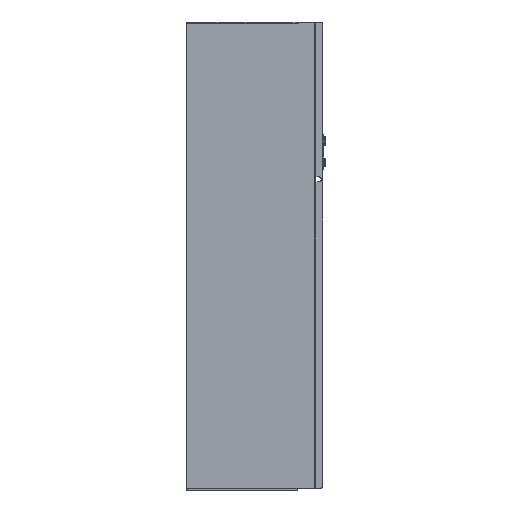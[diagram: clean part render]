
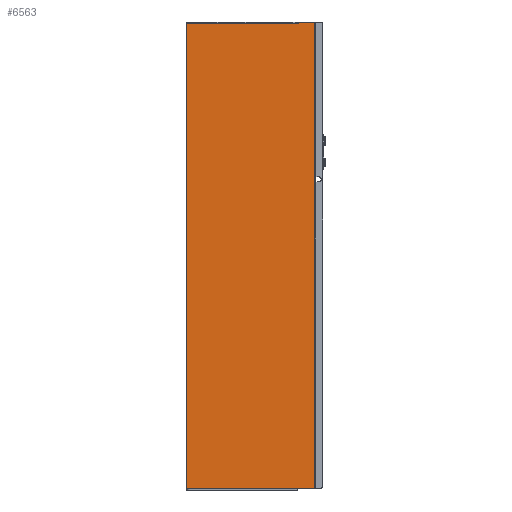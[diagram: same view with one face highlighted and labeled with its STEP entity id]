
A CAD part, left-side view. The second image highlights one B-rep face of the part: STEP entity #6563.
In plain terms, the highlighted planar face has unit normal (-1, 0, 0).
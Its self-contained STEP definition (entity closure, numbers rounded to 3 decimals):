
#78 = ORIENTED_EDGE ( 'NONE', *, *, #2137, .T. ) ;
#111 = LINE ( 'NONE', #9687, #4192 ) ;
#206 = CARTESIAN_POINT ( 'NONE',  ( 0., 18.7, 268.7 ) ) ;
#237 = VERTEX_POINT ( 'NONE', #8477 ) ;
#381 = EDGE_CURVE ( 'NONE', #2314, #1041, #8320, .T. ) ;
#904 = CARTESIAN_POINT ( 'NONE',  ( 0., 20.3, 268.5 ) ) ;
#1041 = VERTEX_POINT ( 'NONE', #12585 ) ;
#1066 = DIRECTION ( 'NONE',  ( 0., 0., -1. ) ) ;
#1410 = CARTESIAN_POINT ( 'NONE',  ( 0., 0., 270. ) ) ;
#1448 = LINE ( 'NONE', #5198, #12883 ) ;
#1467 = VECTOR ( 'NONE', #10112, 1000. ) ;
#1708 = CIRCLE ( 'NONE', #5227, 0.2 ) ;
#1711 = VECTOR ( 'NONE', #17591, 1000. ) ;
#1864 = EDGE_CURVE ( 'NONE', #6651, #5863, #5657, .T. ) ;
#2078 = VECTOR ( 'NONE', #14517, 1000. ) ;
#2137 = EDGE_CURVE ( 'NONE', #2314, #6429, #5878, .T. ) ;
#2205 = VECTOR ( 'NONE', #17024, 1000. ) ;
#2295 = LINE ( 'NONE', #17519, #5531 ) ;
#2314 = VERTEX_POINT ( 'NONE', #16796 ) ;
#3213 = CARTESIAN_POINT ( 'NONE',  ( 0., 18.3, 269.8 ) ) ;
#3336 = CARTESIAN_POINT ( 'NONE',  ( 0., 18.3, 270. ) ) ;
#3864 = DIRECTION ( 'NONE',  ( -1., 0., 0. ) ) ;
#4051 = CARTESIAN_POINT ( 'NONE',  ( 0., 0., 270. ) ) ;
#4105 = EDGE_CURVE ( 'NONE', #7512, #10158, #111, .T. ) ;
#4138 = ORIENTED_EDGE ( 'NONE', *, *, #16521, .T. ) ;
#4192 = VECTOR ( 'NONE', #5488, 1000. ) ;
#4597 = DIRECTION ( 'NONE',  ( 0., 0., -1. ) ) ;
#4769 = EDGE_CURVE ( 'NONE', #14776, #6429, #1708, .T. ) ;
#4977 = CARTESIAN_POINT ( 'NONE',  ( 0., 18.5, 269.8 ) ) ;
#5108 = LINE ( 'NONE', #16895, #1467 ) ;
#5198 = CARTESIAN_POINT ( 'NONE',  ( 0., 148., 270. ) ) ;
#5227 = AXIS2_PLACEMENT_3D ( 'NONE', #12168, #3864, #13551 ) ;
#5460 = VERTEX_POINT ( 'NONE', #10582 ) ;
#5488 = DIRECTION ( 'NONE',  ( 0., 1., 0. ) ) ;
#5531 = VECTOR ( 'NONE', #1066, 1000. ) ;
#5602 = LINE ( 'NONE', #11027, #15292 ) ;
#5606 = CARTESIAN_POINT ( 'NONE',  ( 0., 20.5, 268.7 ) ) ;
#5657 = LINE ( 'NONE', #1410, #12574 ) ;
#5863 = VERTEX_POINT ( 'NONE', #14503 ) ;
#5878 = LINE ( 'NONE', #6043, #2205 ) ;
#5881 = VERTEX_POINT ( 'NONE', #11817 ) ;
#5992 = DIRECTION ( 'NONE',  ( -1., 0., 0. ) ) ;
#6043 = CARTESIAN_POINT ( 'NONE',  ( 0., 20.5, 268.5 ) ) ;
#6047 = EDGE_CURVE ( 'NONE', #5460, #5881, #6838, .T. ) ;
#6269 = CARTESIAN_POINT ( 'NONE',  ( 0., 20.5, 268.8 ) ) ;
#6404 = VECTOR ( 'NONE', #16786, 1000. ) ;
#6429 = VERTEX_POINT ( 'NONE', #904 ) ;
#6470 = VERTEX_POINT ( 'NONE', #10577 ) ;
#6563 = ADVANCED_FACE ( 'NONE', ( #10820 ), #8205, .T. ) ;
#6599 = ORIENTED_EDGE ( 'NONE', *, *, #15136, .F. ) ;
#6651 = VERTEX_POINT ( 'NONE', #3336 ) ;
#6834 = DIRECTION ( 'NONE',  ( 0., -1., 0. ) ) ;
#6838 = LINE ( 'NONE', #13999, #6404 ) ;
#6864 = DIRECTION ( 'NONE',  ( 0., 0., -1. ) ) ;
#7120 = EDGE_CURVE ( 'NONE', #5863, #5881, #5602, .T. ) ;
#7384 = DIRECTION ( 'NONE',  ( 0., 0., -1. ) ) ;
#7396 = ORIENTED_EDGE ( 'NONE', *, *, #11032, .F. ) ;
#7512 = VERTEX_POINT ( 'NONE', #13591 ) ;
#7555 = ORIENTED_EDGE ( 'NONE', *, *, #9340, .F. ) ;
#7789 = CARTESIAN_POINT ( 'NONE',  ( 0., 148., -270. ) ) ;
#8205 = PLANE ( 'NONE',  #14612 ) ;
#8320 = CIRCLE ( 'NONE', #17681, 0.2 ) ;
#8476 = ORIENTED_EDGE ( 'NONE', *, *, #4105, .F. ) ;
#8477 = CARTESIAN_POINT ( 'NONE',  ( 0., 148., 268.8 ) ) ;
#8648 = ORIENTED_EDGE ( 'NONE', *, *, #7120, .F. ) ;
#9262 = ORIENTED_EDGE ( 'NONE', *, *, #381, .F. ) ;
#9272 = AXIS2_PLACEMENT_3D ( 'NONE', #3213, #12889, #4597 ) ;
#9340 = EDGE_CURVE ( 'NONE', #6470, #14776, #9439, .T. ) ;
#9439 = LINE ( 'NONE', #6269, #2078 ) ;
#9468 = ORIENTED_EDGE ( 'NONE', *, *, #16575, .T. ) ;
#9687 = CARTESIAN_POINT ( 'NONE',  ( 0., 20.5, -270. ) ) ;
#10112 = DIRECTION ( 'NONE',  ( 0., 0., -1. ) ) ;
#10158 = VERTEX_POINT ( 'NONE', #7789 ) ;
#10467 = ORIENTED_EDGE ( 'NONE', *, *, #6047, .T. ) ;
#10577 = CARTESIAN_POINT ( 'NONE',  ( 0., 20.5, 268.8 ) ) ;
#10582 = CARTESIAN_POINT ( 'NONE',  ( 0., 20.5, -269. ) ) ;
#10820 = FACE_OUTER_BOUND ( 'NONE', #15158, .T. ) ;
#11027 = CARTESIAN_POINT ( 'NONE',  ( 0., 0., 270. ) ) ;
#11032 = EDGE_CURVE ( 'NONE', #14570, #6651, #16204, .T. ) ;
#11790 = ORIENTED_EDGE ( 'NONE', *, *, #4769, .F. ) ;
#11817 = CARTESIAN_POINT ( 'NONE',  ( 0., 0., -269. ) ) ;
#12168 = CARTESIAN_POINT ( 'NONE',  ( 0., 20.3, 268.7 ) ) ;
#12574 = VECTOR ( 'NONE', #6834, 1000. ) ;
#12585 = CARTESIAN_POINT ( 'NONE',  ( 0., 18.5, 268.7 ) ) ;
#12883 = VECTOR ( 'NONE', #16324, 1000. ) ;
#12889 = DIRECTION ( 'NONE',  ( 1., 0., 0. ) ) ;
#13542 = CARTESIAN_POINT ( 'NONE',  ( 0., 148., 268.8 ) ) ;
#13551 = DIRECTION ( 'NONE',  ( 0., 0., -1. ) ) ;
#13565 = ORIENTED_EDGE ( 'NONE', *, *, #15982, .F. ) ;
#13591 = CARTESIAN_POINT ( 'NONE',  ( 0., 20.5, -270. ) ) ;
#13999 = CARTESIAN_POINT ( 'NONE',  ( 0., 20.5, -269. ) ) ;
#14503 = CARTESIAN_POINT ( 'NONE',  ( 0., 0., 270. ) ) ;
#14517 = DIRECTION ( 'NONE',  ( 0., 0., -1. ) ) ;
#14570 = VERTEX_POINT ( 'NONE', #4977 ) ;
#14612 = AXIS2_PLACEMENT_3D ( 'NONE', #4051, #15110, #6864 ) ;
#14776 = VERTEX_POINT ( 'NONE', #5606 ) ;
#15110 = DIRECTION ( 'NONE',  ( -1., 0., 0. ) ) ;
#15136 = EDGE_CURVE ( 'NONE', #237, #6470, #16322, .T. ) ;
#15158 = EDGE_LOOP ( 'NONE', ( #4138, #9262, #78, #11790, #7555, #6599, #9468, #8476, #13565, #10467, #8648, #16352, #7396 ) ) ;
#15292 = VECTOR ( 'NONE', #17812, 1000. ) ;
#15982 = EDGE_CURVE ( 'NONE', #5460, #7512, #5108, .T. ) ;
#16204 = CIRCLE ( 'NONE', #9272, 0.2 ) ;
#16322 = LINE ( 'NONE', #13542, #1711 ) ;
#16324 = DIRECTION ( 'NONE',  ( 0., 0., -1. ) ) ;
#16352 = ORIENTED_EDGE ( 'NONE', *, *, #1864, .F. ) ;
#16521 = EDGE_CURVE ( 'NONE', #14570, #1041, #2295, .T. ) ;
#16575 = EDGE_CURVE ( 'NONE', #237, #10158, #1448, .T. ) ;
#16786 = DIRECTION ( 'NONE',  ( 0., -1., 0. ) ) ;
#16796 = CARTESIAN_POINT ( 'NONE',  ( 0., 18.7, 268.5 ) ) ;
#16895 = CARTESIAN_POINT ( 'NONE',  ( 0., 20.5, -269. ) ) ;
#17024 = DIRECTION ( 'NONE',  ( 0., 1., 0. ) ) ;
#17519 = CARTESIAN_POINT ( 'NONE',  ( 0., 18.5, 270. ) ) ;
#17591 = DIRECTION ( 'NONE',  ( 0., -1., 0. ) ) ;
#17681 = AXIS2_PLACEMENT_3D ( 'NONE', #206, #5992, #7384 ) ;
#17812 = DIRECTION ( 'NONE',  ( 0., 0., -1. ) ) ;
